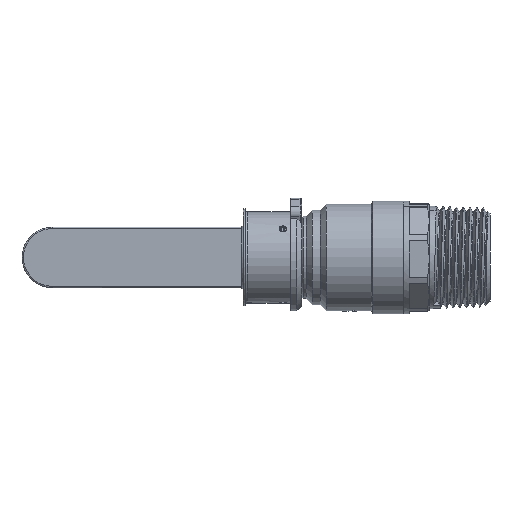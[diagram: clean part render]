
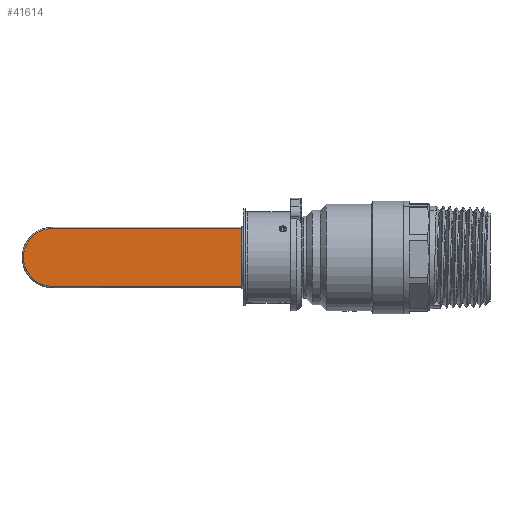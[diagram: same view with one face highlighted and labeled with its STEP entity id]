
A CAD part, front view. The second image highlights one B-rep face of the part: STEP entity #41614.
In plain terms, the highlighted planar face has unit normal (0, -1, 0).
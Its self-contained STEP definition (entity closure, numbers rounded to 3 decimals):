
#1397 = VERTEX_POINT ( 'NONE', #11695 ) ;
#1663 = CARTESIAN_POINT ( 'NONE',  ( 72.23, 2.828, 9.5 ) ) ;
#1976 = DIRECTION ( 'NONE',  ( 0., -1., 0. ) ) ;
#2442 = ORIENTED_EDGE ( 'NONE', *, *, #25035, .T. ) ;
#2937 = CARTESIAN_POINT ( 'NONE',  ( 2.828, 2.828, 10. ) ) ;
#3312 = VERTEX_POINT ( 'NONE', #1663 ) ;
#3755 = VECTOR ( 'NONE', #9697, 1000. ) ;
#8917 = CIRCLE ( 'NONE', #24993, 9.5 ) ;
#9697 = DIRECTION ( 'NONE',  ( 1., 0., 0. ) ) ;
#10067 = LINE ( 'NONE', #29620, #3755 ) ;
#11695 = CARTESIAN_POINT ( 'NONE',  ( 72.23, 2.828, -9.5 ) ) ;
#12613 = DIRECTION ( 'NONE',  ( 0., 0., -1. ) ) ;
#15952 = EDGE_CURVE ( 'NONE', #3312, #16339, #30087, .T. ) ;
#16196 = ORIENTED_EDGE ( 'NONE', *, *, #15952, .T. ) ;
#16339 = VERTEX_POINT ( 'NONE', #26809 ) ;
#17724 = CARTESIAN_POINT ( 'NONE',  ( 72.23, 2.828, 0. ) ) ;
#19957 = EDGE_LOOP ( 'NONE', ( #37456, #35729, #20622, #2442, #16196 ) ) ;
#20622 = ORIENTED_EDGE ( 'NONE', *, *, #33220, .T. ) ;
#21177 = VECTOR ( 'NONE', #12613, 1000. ) ;
#21209 = DIRECTION ( 'NONE',  ( 0., 0., 1. ) ) ;
#21279 = VECTOR ( 'NONE', #27419, 1000. ) ;
#23118 = CARTESIAN_POINT ( 'NONE',  ( 2.828, 2.828, 10. ) ) ;
#24599 = CIRCLE ( 'NONE', #27302, 9.5 ) ;
#24993 = AXIS2_PLACEMENT_3D ( 'NONE', #31704, #1976, #42155 ) ;
#25035 = EDGE_CURVE ( 'NONE', #33899, #3312, #24599, .T. ) ;
#26441 = DIRECTION ( 'NONE',  ( 0., 1., 0. ) ) ;
#26809 = CARTESIAN_POINT ( 'NONE',  ( 2.828, 2.828, 9.5 ) ) ;
#27302 = AXIS2_PLACEMENT_3D ( 'NONE', #17724, #41080, #21209 ) ;
#27419 = DIRECTION ( 'NONE',  ( -1., 0., 0. ) ) ;
#28562 = EDGE_CURVE ( 'NONE', #16339, #42234, #29968, .T. ) ;
#29620 = CARTESIAN_POINT ( 'NONE',  ( 2.828, 2.828, -9.5 ) ) ;
#29928 = DIRECTION ( 'NONE',  ( 0., 0., 1. ) ) ;
#29968 = LINE ( 'NONE', #2937, #21177 ) ;
#30087 = LINE ( 'NONE', #41075, #21279 ) ;
#31506 = AXIS2_PLACEMENT_3D ( 'NONE', #23118, #26441, #29928 ) ;
#31704 = CARTESIAN_POINT ( 'NONE',  ( 72.23, 2.828, 0. ) ) ;
#32194 = EDGE_CURVE ( 'NONE', #42234, #1397, #10067, .T. ) ;
#33220 = EDGE_CURVE ( 'NONE', #1397, #33899, #8917, .T. ) ;
#33899 = VERTEX_POINT ( 'NONE', #35132 ) ;
#34032 = CARTESIAN_POINT ( 'NONE',  ( 2.828, 2.828, -9.5 ) ) ;
#35132 = CARTESIAN_POINT ( 'NONE',  ( 81.73, 2.828, 0. ) ) ;
#35729 = ORIENTED_EDGE ( 'NONE', *, *, #32194, .T. ) ;
#36322 = FACE_OUTER_BOUND ( 'NONE', #19957, .T. ) ;
#36893 = PLANE ( 'NONE',  #31506 ) ;
#37456 = ORIENTED_EDGE ( 'NONE', *, *, #28562, .T. ) ;
#41075 = CARTESIAN_POINT ( 'NONE',  ( 2.828, 2.828, 9.5 ) ) ;
#41080 = DIRECTION ( 'NONE',  ( 0., -1., 0. ) ) ;
#41614 = ADVANCED_FACE ( 'NONE', ( #36322 ), #36893, .F. ) ;
#42155 = DIRECTION ( 'NONE',  ( 0., 0., 1. ) ) ;
#42234 = VERTEX_POINT ( 'NONE', #34032 ) ;
